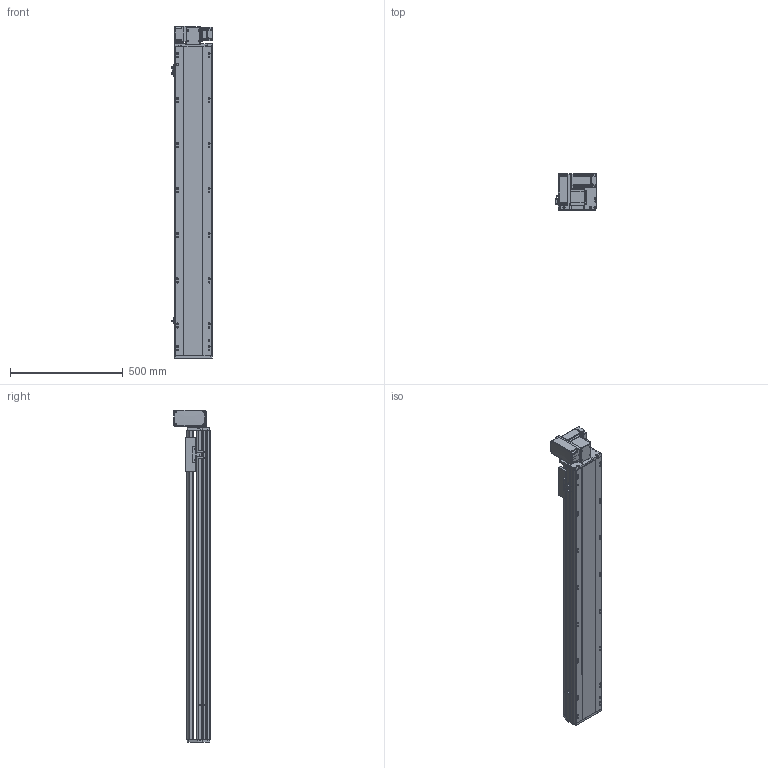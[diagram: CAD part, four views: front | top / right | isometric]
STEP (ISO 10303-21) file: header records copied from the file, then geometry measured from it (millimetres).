
FILE_DESCRIPTION (( 'STEP AP214' ), '1' );
FILE_NAME ('RTB17S-XX-1100-LW-M40-C4.STEP', '2025-12-11T07:04:49', ( '' ), ( '' ), 'SwSTEP 2.0', 'SolidWorks 2018', '' );
FILE_SCHEMA (( 'AUTOMOTIVE_DESIGN' ));
Length unit declared in the file: millimetre
Products named in the file (14): RTB17S-L-001耜醱啣^RTB17S-XX-XX-LW-M40-C4; RTB17-R-011菁釱^RTB17S-XX-XX-LW-M40-C4; RTB17S-L-014-T20--々湍釱^RTB17S-LW-々湍釱蚾饜-400W_RTB17S-XX-XX-LW-M40-C4; RTH13-BL-012覜茼え俋离^RTB17S-XX-XX-LW-M40-C4; 400W侜督萇儂^RTB17S-XX-XX-LW-M40-C4; RTB17S-L-007奻裔^RTB17S-XX-XX-LW-M40-C4; RTB14-L-008-M20--萇儂啣^RTB17S-LW-々湍釱蚾饜-400W_RTB17S-XX-XX-LW-M40-C4; RTB14-L-005P--轴承塑胶压盖^RTB17S-LW-皮带座装配-400W_RTB17S-XX-XX-LW-M40-C4; OMRON EE-SX672 传感器^RTB17S-XX-XX-LW-M40-C4; RTB14-L-017P^RTB17S-LW-々湍釱蚾饜-400W_RTB17S-XX-XX-LW-M40-C4; RTB17S-LW-々湍釱蚾饜-400W^RTB17S-XX-XX-LW-M40-C4; RTB17S-XX-1100-LW-M40-C4; RTB17S-L-004佪裝蹟譫蟀諉釱^RTB17S-XX-XX-LW-M40-C4; RTB14-L-018P^RTB17S-LW-々湍釱蚾饜-400W_RTB17S-XX-XX-LW-M40-C4
Assembly tree (16 placements, depth 3):
  RTB17S-XX-1100-LW-M40-C4
    RTB17-R-011菁釱^RTB17S-XX-XX-LW-M40-C4
    RTB17S-L-007奻裔^RTB17S-XX-XX-LW-M40-C4
    OMRON EE-SX672 传感器^RTB17S-XX-XX-LW-M40-C4  x3
    RTB17S-L-001耜醱啣^RTB17S-XX-XX-LW-M40-C4
    400W侜督萇儂^RTB17S-XX-XX-LW-M40-C4
    RTB17S-L-004佪裝蹟譫蟀諉釱^RTB17S-XX-XX-LW-M40-C4
    RTH13-BL-012覜茼え俋离^RTB17S-XX-XX-LW-M40-C4
    RTB17S-LW-々湍釱蚾饜-400W^RTB17S-XX-XX-LW-M40-C4
      RTB17S-L-014-T20--々湍釱^RTB17S-LW-々湍釱蚾饜-400W_RTB17S-XX-XX-LW-M40-C4
      RTB14-L-005P--轴承塑胶压盖^RTB17S-LW-皮带座装配-400W_RTB17S-XX-XX-LW-M40-C4
      RTB14-L-008-M20--萇儂啣^RTB17S-LW-々湍釱蚾饜-400W_RTB17S-XX-XX-LW-M40-C4
      RTB14-L-017P^RTB17S-LW-々湍釱蚾饜-400W_RTB17S-XX-XX-LW-M40-C4  x2
      RTB14-L-018P^RTB17S-LW-々湍釱蚾饜-400W_RTB17S-XX-XX-LW-M40-C4
Bounding box: 186 x 160.5 x 1472.5 mm (x, y, z)
Volume: 13187235.8 mm3; surface area: 1587893.3 mm2
Topology: 15 solids, 15 shells, 2221 faces, 6141 edges, 4005 vertices
Faces by surface type: plane 1070, cylinder 703, bspline 301, cone 139, torus 8
Entity records: 63401 total; most frequent: CARTESIAN_POINT 17746, ORIENTED_EDGE 9126, DIRECTION 8486, EDGE_CURVE 4563, VERTEX_POINT 2993, AXIS2_PLACEMENT_3D 2923, VECTOR 2640, LINE 2640
